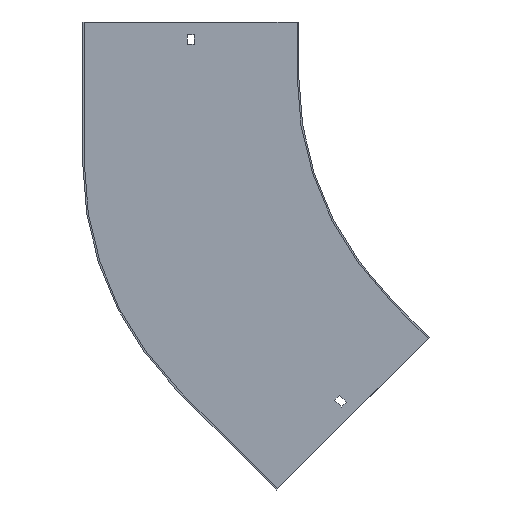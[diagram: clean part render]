
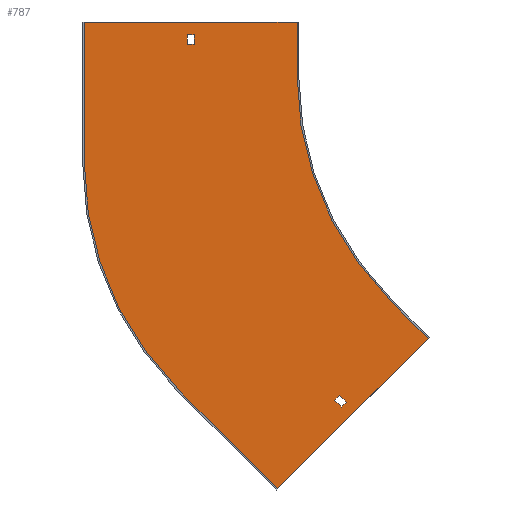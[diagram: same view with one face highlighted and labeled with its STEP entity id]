
A CAD part, front view. The second image highlights one B-rep face of the part: STEP entity #787.
In plain terms, the highlighted planar face has unit normal (0, -1, 0).
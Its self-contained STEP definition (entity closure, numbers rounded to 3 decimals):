
#6 = VERTEX_POINT ( 'NONE', #475 ) ;
#12 = ORIENTED_EDGE ( 'NONE', *, *, #203, .F. ) ;
#16 = ORIENTED_EDGE ( 'NONE', *, *, #777, .F. ) ;
#20 = DIRECTION ( 'NONE',  ( 0., 1., 0. ) ) ;
#23 = CARTESIAN_POINT ( 'NONE',  ( -300., -1.5, 0. ) ) ;
#35 = VERTEX_POINT ( 'NONE', #731 ) ;
#40 = EDGE_CURVE ( 'NONE', #226, #403, #265, .T. ) ;
#52 = CARTESIAN_POINT ( 'NONE',  ( 26.87, -1.5, -26.87 ) ) ;
#59 = VERTEX_POINT ( 'NONE', #649 ) ;
#65 = EDGE_LOOP ( 'NONE', ( #16, #12, #360, #89 ) ) ;
#69 = EDGE_LOOP ( 'NONE', ( #453, #555, #381, #398 ) ) ;
#79 = CARTESIAN_POINT ( 'NONE',  ( -500., -1.5, -82.843 ) ) ;
#85 = VECTOR ( 'NONE', #631, 1000. ) ;
#86 = LINE ( 'NONE', #629, #242 ) ;
#89 = ORIENTED_EDGE ( 'NONE', *, *, #40, .F. ) ;
#94 = LINE ( 'NONE', #156, #738 ) ;
#96 = VECTOR ( 'NONE', #717, 1000. ) ;
#101 = LINE ( 'NONE', #832, #383 ) ;
#107 = CARTESIAN_POINT ( 'NONE',  ( 0., -1.5, 0. ) ) ;
#118 = VECTOR ( 'NONE', #262, 1000. ) ;
#120 = AXIS2_PLACEMENT_3D ( 'NONE', #107, #648, #575 ) ;
#129 = ORIENTED_EDGE ( 'NONE', *, *, #638, .F. ) ;
#131 = VERTEX_POINT ( 'NONE', #409 ) ;
#147 = ORIENTED_EDGE ( 'NONE', *, *, #435, .F. ) ;
#154 = ORIENTED_EDGE ( 'NONE', *, *, #486, .F. ) ;
#156 = CARTESIAN_POINT ( 'NONE',  ( -212.132, -1.5, -212.132 ) ) ;
#165 = VECTOR ( 'NONE', #517, 1000. ) ;
#167 = DIRECTION ( 'NONE',  ( 0., -1., 0. ) ) ;
#168 = CARTESIAN_POINT ( 'NONE',  ( -396.75, -1.5, 29. ) ) ;
#169 = EDGE_CURVE ( 'NONE', #260, #583, #779, .T. ) ;
#180 = EDGE_CURVE ( 'NONE', #131, #35, #94, .T. ) ;
#181 = LINE ( 'NONE', #254, #547 ) ;
#192 = LINE ( 'NONE', #406, #733 ) ;
#203 = EDGE_CURVE ( 'NONE', #604, #670, #228, .T. ) ;
#213 = CARTESIAN_POINT ( 'NONE',  ( -500., -1.5, 50. ) ) ;
#215 = DIRECTION ( 'NONE',  ( 0., 0., -1. ) ) ;
#218 = ORIENTED_EDGE ( 'NONE', *, *, #516, .F. ) ;
#226 = VERTEX_POINT ( 'NONE', #425 ) ;
#228 = LINE ( 'NONE', #52, #812 ) ;
#229 = FACE_BOUND ( 'NONE', #69, .T. ) ;
#230 = CARTESIAN_POINT ( 'NONE',  ( -264.635, -1.5, -305.647 ) ) ;
#242 = VECTOR ( 'NONE', #306, 1000. ) ;
#246 = CARTESIAN_POINT ( 'NONE',  ( -501.5, -1.5, 50. ) ) ;
#251 = LINE ( 'NONE', #309, #85 ) ;
#254 = CARTESIAN_POINT ( 'NONE',  ( -318.198, -1.5, -388.909 ) ) ;
#256 = ORIENTED_EDGE ( 'NONE', *, *, #643, .F. ) ;
#258 = EDGE_CURVE ( 'NONE', #287, #711, #322, .T. ) ;
#260 = VERTEX_POINT ( 'NONE', #213 ) ;
#262 = DIRECTION ( 'NONE',  ( 1., 0., 0. ) ) ;
#265 = LINE ( 'NONE', #660, #483 ) ;
#271 = CARTESIAN_POINT ( 'NONE',  ( -403.25, -1.5, 38. ) ) ;
#287 = VERTEX_POINT ( 'NONE', #271 ) ;
#301 = CARTESIAN_POINT ( 'NONE',  ( -500., -1.5, -82.843 ) ) ;
#303 = DIRECTION ( 'NONE',  ( -0.707, 0., 0.707 ) ) ;
#306 = DIRECTION ( 'NONE',  ( -1., 0., 0. ) ) ;
#309 = CARTESIAN_POINT ( 'NONE',  ( -300., -1.5, 50. ) ) ;
#312 = LINE ( 'NONE', #577, #165 ) ;
#314 = DIRECTION ( 'NONE',  ( 1., 0., 0. ) ) ;
#322 = LINE ( 'NONE', #348, #118 ) ;
#326 = VERTEX_POINT ( 'NONE', #168 ) ;
#343 = CARTESIAN_POINT ( 'NONE',  ( -200., -1.5, -82.843 ) ) ;
#348 = CARTESIAN_POINT ( 'NONE',  ( 0., -1.5, 38. ) ) ;
#349 = CARTESIAN_POINT ( 'NONE',  ( -396.75, -1.5, 38. ) ) ;
#360 = ORIENTED_EDGE ( 'NONE', *, *, #668, .F. ) ;
#372 = FACE_BOUND ( 'NONE', #65, .T. ) ;
#381 = ORIENTED_EDGE ( 'NONE', *, *, #514, .T. ) ;
#383 = VECTOR ( 'NONE', #303, 1000. ) ;
#387 = VERTEX_POINT ( 'NONE', #301 ) ;
#398 = ORIENTED_EDGE ( 'NONE', *, *, #424, .T. ) ;
#403 = VERTEX_POINT ( 'NONE', #230 ) ;
#406 = CARTESIAN_POINT ( 'NONE',  ( -285.141, -1.5, -285.141 ) ) ;
#409 = CARTESIAN_POINT ( 'NONE',  ( -212.132, -1.5, -212.132 ) ) ;
#410 = DIRECTION ( 'NONE',  ( 0., 0., 1. ) ) ;
#415 = EDGE_CURVE ( 'NONE', #719, #131, #509, .T. ) ;
#424 = EDGE_CURVE ( 'NONE', #6, #287, #639, .T. ) ;
#425 = CARTESIAN_POINT ( 'NONE',  ( -260.039, -1.5, -301.051 ) ) ;
#430 = CARTESIAN_POINT ( 'NONE',  ( 0., -1.5, 0. ) ) ;
#435 = EDGE_CURVE ( 'NONE', #583, #719, #251, .T. ) ;
#453 = ORIENTED_EDGE ( 'NONE', *, *, #258, .T. ) ;
#455 = DIRECTION ( 'NONE',  ( 0.707, 0., -0.707 ) ) ;
#458 = CARTESIAN_POINT ( 'NONE',  ( -403.25, -1.5, 0. ) ) ;
#475 = CARTESIAN_POINT ( 'NONE',  ( -403.25, -1.5, 29. ) ) ;
#483 = VECTOR ( 'NONE', #725, 1000. ) ;
#486 = EDGE_CURVE ( 'NONE', #541, #59, #181, .T. ) ;
#502 = EDGE_CURVE ( 'NONE', #711, #326, #312, .T. ) ;
#503 = EDGE_LOOP ( 'NONE', ( #676, #256, #129, #154, #218, #704, #803, #147 ) ) ;
#509 = CIRCLE ( 'NONE', #120, 300. ) ;
#510 = CARTESIAN_POINT ( 'NONE',  ( -318.198, -1.5, -388.909 ) ) ;
#514 = EDGE_CURVE ( 'NONE', #326, #6, #86, .T. ) ;
#516 = EDGE_CURVE ( 'NONE', #35, #541, #772, .T. ) ;
#517 = DIRECTION ( 'NONE',  ( 0., 0., -1. ) ) ;
#536 = CARTESIAN_POINT ( 'NONE',  ( -258.271, -1.5, -312.011 ) ) ;
#541 = VERTEX_POINT ( 'NONE', #510 ) ;
#544 = CARTESIAN_POINT ( 'NONE',  ( -253.675, -1.5, -307.415 ) ) ;
#547 = VECTOR ( 'NONE', #848, 1000. ) ;
#555 = ORIENTED_EDGE ( 'NONE', *, *, #502, .T. ) ;
#563 = DIRECTION ( 'NONE',  ( -0.707, 0., -0.707 ) ) ;
#575 = DIRECTION ( 'NONE',  ( 0., 0., -1. ) ) ;
#577 = CARTESIAN_POINT ( 'NONE',  ( -396.75, -1.5, 0. ) ) ;
#583 = VERTEX_POINT ( 'NONE', #588 ) ;
#588 = CARTESIAN_POINT ( 'NONE',  ( -300., -1.5, 50. ) ) ;
#599 = DIRECTION ( 'NONE',  ( 0.707, 0., -0.707 ) ) ;
#604 = VERTEX_POINT ( 'NONE', #536 ) ;
#629 = CARTESIAN_POINT ( 'NONE',  ( 0., -1.5, 29. ) ) ;
#631 = DIRECTION ( 'NONE',  ( 0., 0., -1. ) ) ;
#638 = EDGE_CURVE ( 'NONE', #59, #387, #809, .T. ) ;
#639 = LINE ( 'NONE', #458, #96 ) ;
#643 = EDGE_CURVE ( 'NONE', #387, #260, #661, .T. ) ;
#647 = AXIS2_PLACEMENT_3D ( 'NONE', #343, #20, #215 ) ;
#648 = DIRECTION ( 'NONE',  ( 0., -1., 0. ) ) ;
#649 = CARTESIAN_POINT ( 'NONE',  ( -412.132, -1.5, -294.975 ) ) ;
#660 = CARTESIAN_POINT ( 'NONE',  ( 20.506, -1.5, -20.506 ) ) ;
#661 = LINE ( 'NONE', #79, #748 ) ;
#668 = EDGE_CURVE ( 'NONE', #403, #604, #192, .T. ) ;
#670 = VERTEX_POINT ( 'NONE', #544 ) ;
#676 = ORIENTED_EDGE ( 'NONE', *, *, #169, .F. ) ;
#704 = ORIENTED_EDGE ( 'NONE', *, *, #180, .F. ) ;
#705 = CARTESIAN_POINT ( 'NONE',  ( -175.716, -1.5, -246.427 ) ) ;
#707 = AXIS2_PLACEMENT_3D ( 'NONE', #430, #167, #758 ) ;
#709 = DIRECTION ( 'NONE',  ( 0.707, 0., 0.707 ) ) ;
#711 = VERTEX_POINT ( 'NONE', #349 ) ;
#717 = DIRECTION ( 'NONE',  ( 0., 0., 1. ) ) ;
#719 = VERTEX_POINT ( 'NONE', #23 ) ;
#723 = VECTOR ( 'NONE', #314, 1000. ) ;
#724 = VECTOR ( 'NONE', #563, 1000. ) ;
#725 = DIRECTION ( 'NONE',  ( -0.707, 0., -0.707 ) ) ;
#731 = CARTESIAN_POINT ( 'NONE',  ( -176.777, -1.5, -247.487 ) ) ;
#733 = VECTOR ( 'NONE', #599, 1000. ) ;
#738 = VECTOR ( 'NONE', #455, 1000. ) ;
#748 = VECTOR ( 'NONE', #410, 1000. ) ;
#758 = DIRECTION ( 'NONE',  ( 0., 0., -1. ) ) ;
#772 = LINE ( 'NONE', #705, #724 ) ;
#777 = EDGE_CURVE ( 'NONE', #670, #226, #101, .T. ) ;
#779 = LINE ( 'NONE', #246, #723 ) ;
#787 = ADVANCED_FACE ( 'NONE', ( #372, #834, #229 ), #826, .T. ) ;
#803 = ORIENTED_EDGE ( 'NONE', *, *, #415, .F. ) ;
#809 = CIRCLE ( 'NONE', #647, 300. ) ;
#812 = VECTOR ( 'NONE', #709, 1000. ) ;
#826 = PLANE ( 'NONE',  #707 ) ;
#832 = CARTESIAN_POINT ( 'NONE',  ( -280.545, -1.5, -280.545 ) ) ;
#834 = FACE_OUTER_BOUND ( 'NONE', #503, .T. ) ;
#848 = DIRECTION ( 'NONE',  ( -0.707, 0., 0.707 ) ) ;
